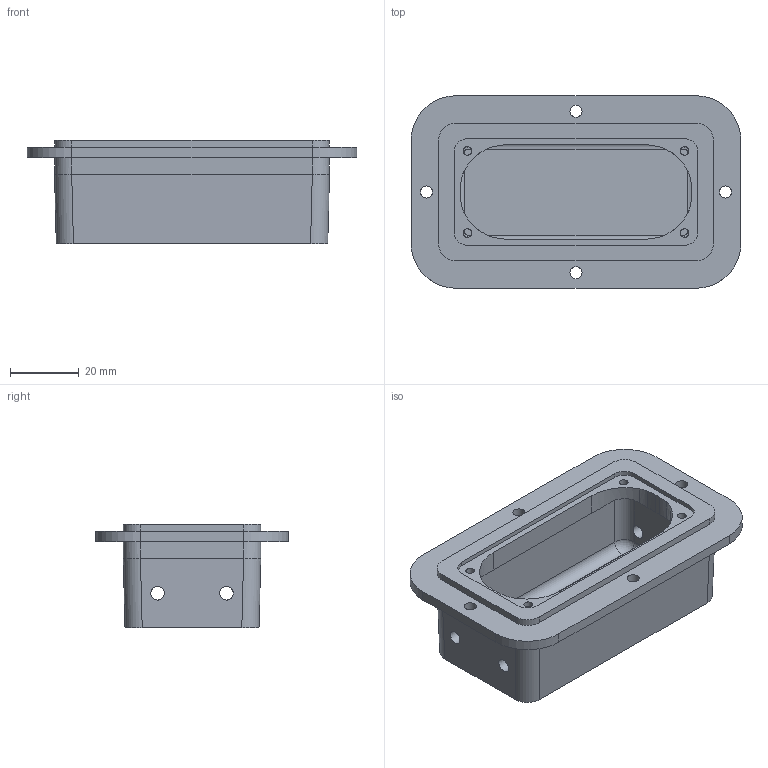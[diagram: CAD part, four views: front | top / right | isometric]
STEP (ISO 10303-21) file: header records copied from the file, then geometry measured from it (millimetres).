
FILE_DESCRIPTION(/* description */ ('Alibre Inc.'),/* implementation_level */ '2;1');
FILE_NAME(/* name */ 'export-29FD6BD1-D11F-47AB-AAB9-1406353E2046',/* time_stamp */ '2020-10-18T11:42:19-05:00',/* author */ (''),/* organization */ (''),/* preprocessor_version */ 'ST-DEVELOPER v17',/* originating_system */ 'Alibre',/* authorisation */ '');
FILE_SCHEMA (('AUTOMOTIVE_DESIGN'));
Length unit declared in the file: millimetre
Bounding box: 96 x 56 x 30 mm (x, y, z)
Volume: 43699.7 mm3; surface area: 23331.6 mm2
Topology: 1 solids, 2 shells, 105 faces, 303 edges, 198 vertices
Faces by surface type: cylinder 45, plane 44, bspline 8, torus 4, cone 4
Full cylindrical faces by diameter (mm): 0.898 x1, 2.5 x4, 3.5 x4, 4 x4
Entity records: 3596 total; most frequent: CARTESIAN_POINT 1036, ORIENTED_EDGE 556, DIRECTION 467, EDGE_CURVE 278, AXIS2_PLACEMENT_3D 190, VERTEX_POINT 186, EDGE_LOOP 138, FACE_BOUND 138
